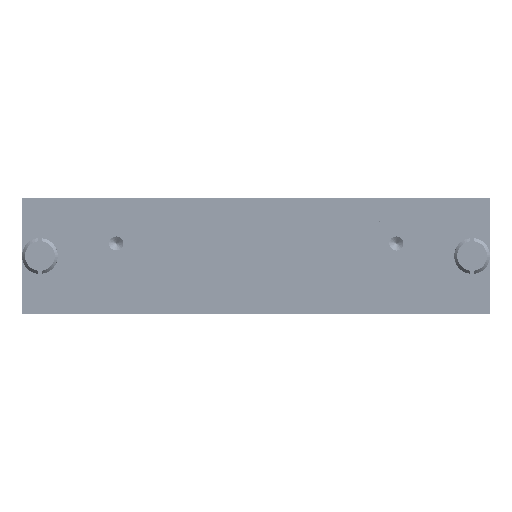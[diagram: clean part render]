
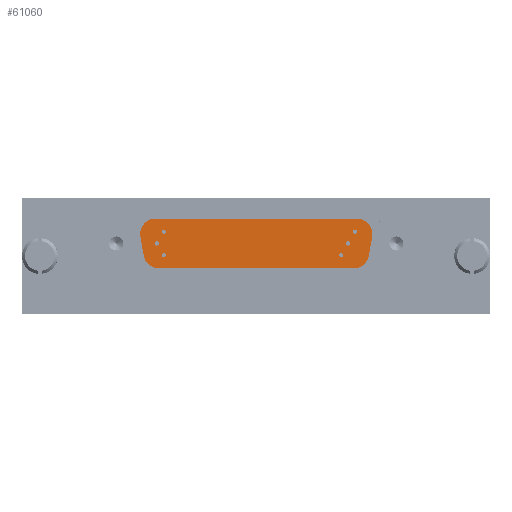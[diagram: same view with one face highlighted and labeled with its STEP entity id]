
A CAD part, left-side view. The second image highlights one B-rep face of the part: STEP entity #61060.
In plain terms, the highlighted planar face has unit normal (-1, 0, 0).
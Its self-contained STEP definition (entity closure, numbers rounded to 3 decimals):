
#61060=ADVANCED_FACE('',(#147154,#147156,#147158,#147160,#147162,#147164,#147166),
#147168,.T.);
#147154=FACE_BOUND('',#147155,.T.);
#147155=EDGE_LOOP('',(#235983,#235984,#235985,#235986,#235987,#235988,#235989,#235990));
#147156=FACE_BOUND('',#147157,.T.);
#147157=EDGE_LOOP('',(#235991));
#147158=FACE_BOUND('',#147159,.T.);
#147159=EDGE_LOOP('',(#235992));
#147160=FACE_BOUND('',#147161,.T.);
#147161=EDGE_LOOP('',(#235993));
#147162=FACE_BOUND('',#147163,.T.);
#147163=EDGE_LOOP('',(#235994));
#147164=FACE_BOUND('',#147165,.T.);
#147165=EDGE_LOOP('',(#235995));
#147166=FACE_BOUND('',#147167,.T.);
#147167=EDGE_LOOP('',(#235996));
#147168=PLANE('',#147169);
#147169=AXIS2_PLACEMENT_3D('',#147170,#147171,#147172);
#147170=CARTESIAN_POINT('',(-6.794,10.,-1.93));
#147171=DIRECTION('',(-1.,0.,0.));
#147172=DIRECTION('',(0.,0.,1.));
#235983=ORIENTED_EDGE('',*,*,#286956,.T.);
#235984=ORIENTED_EDGE('',*,*,#286971,.T.);
#235985=ORIENTED_EDGE('',*,*,#286969,.T.);
#235986=ORIENTED_EDGE('',*,*,#286967,.T.);
#235987=ORIENTED_EDGE('',*,*,#286965,.T.);
#235988=ORIENTED_EDGE('',*,*,#286963,.T.);
#235989=ORIENTED_EDGE('',*,*,#286961,.T.);
#235990=ORIENTED_EDGE('',*,*,#286959,.T.);
#235991=ORIENTED_EDGE('',*,*,#286976,.T.);
#235992=ORIENTED_EDGE('',*,*,#286977,.T.);
#235993=ORIENTED_EDGE('',*,*,#286978,.T.);
#235994=ORIENTED_EDGE('',*,*,#286979,.T.);
#235995=ORIENTED_EDGE('',*,*,#286980,.T.);
#235996=ORIENTED_EDGE('',*,*,#286981,.T.);
#286956=EDGE_CURVE('',#332772,#332773,#332774,.T.);
#286959=EDGE_CURVE('',#332777,#332772,#332778,.T.);
#286961=EDGE_CURVE('',#332780,#332777,#332781,.T.);
#286963=EDGE_CURVE('',#332783,#332780,#332784,.T.);
#286965=EDGE_CURVE('',#332786,#332783,#332787,.T.);
#286967=EDGE_CURVE('',#332789,#332786,#332790,.T.);
#286969=EDGE_CURVE('',#332792,#332789,#332793,.T.);
#286971=EDGE_CURVE('',#332773,#332792,#332795,.T.);
#286976=EDGE_CURVE('',#332804,#332804,#332805,.T.);
#286977=EDGE_CURVE('',#332806,#332806,#332807,.T.);
#286978=EDGE_CURVE('',#332808,#332808,#332809,.T.);
#286979=EDGE_CURVE('',#332810,#332810,#332811,.T.);
#286980=EDGE_CURVE('',#332812,#332812,#332813,.T.);
#286981=EDGE_CURVE('',#332814,#332814,#332815,.T.);
#332772=VERTEX_POINT('',#476763);
#332773=VERTEX_POINT('',#476764);
#332774=LINE('',#476765,#476766);
#332777=VERTEX_POINT('',#476774);
#332778=CIRCLE('',#476775,2.6);
#332780=VERTEX_POINT('',#476782);
#332781=LINE('',#476783,#476784);
#332783=VERTEX_POINT('',#476789);
#332784=CIRCLE('',#476790,2.6);
#332786=VERTEX_POINT('',#476797);
#332787=LINE('',#476798,#476799);
#332789=VERTEX_POINT('',#476804);
#332790=CIRCLE('',#476805,2.6);
#332792=VERTEX_POINT('',#476812);
#332793=LINE('',#476813,#476814);
#332795=CIRCLE('',#476819,2.6);
#332804=VERTEX_POINT('',#476843);
#332805=CIRCLE('',#476844,0.35);
#332806=VERTEX_POINT('',#476848);
#332807=CIRCLE('',#476849,0.35);
#332808=VERTEX_POINT('',#476853);
#332809=CIRCLE('',#476854,0.35);
#332810=VERTEX_POINT('',#476858);
#332811=CIRCLE('',#476859,0.35);
#332812=VERTEX_POINT('',#476863);
#332813=CIRCLE('',#476864,0.35);
#332814=VERTEX_POINT('',#476868);
#332815=CIRCLE('',#476869,0.35);
#476763=CARTESIAN_POINT('',(-6.794,53.073,0.19));
#476764=CARTESIAN_POINT('',(-6.794,20.427,0.19));
#476765=CARTESIAN_POINT('',(-6.794,53.073,0.19));
#476766=VECTOR('',#476767,1.);
#476767=DIRECTION('',(0.,-1.,0.));
#476774=CARTESIAN_POINT('',(-6.794,55.633,2.339));
#476775=AXIS2_PLACEMENT_3D('',#476776,#476777,#476778);
#476776=CARTESIAN_POINT('',(-6.794,53.073,2.79));
#476777=DIRECTION('',(-1.,0.,0.));
#476778=DIRECTION('',(0.,0.985,-0.174));
#476782=CARTESIAN_POINT('',(-6.794,56.19,5.499));
#476783=CARTESIAN_POINT('',(-6.794,56.19,5.499));
#476784=VECTOR('',#476785,1.);
#476785=DIRECTION('',(0.,-0.174,-0.985));
#476789=CARTESIAN_POINT('',(-6.794,53.63,8.55));
#476790=AXIS2_PLACEMENT_3D('',#476791,#476792,#476793);
#476791=CARTESIAN_POINT('',(-6.794,53.63,5.95));
#476792=DIRECTION('',(-1.,0.,0.));
#476793=DIRECTION('',(0.,0.,1.));
#476797=CARTESIAN_POINT('',(-6.794,19.87,8.55));
#476798=CARTESIAN_POINT('',(-6.794,19.87,8.55));
#476799=VECTOR('',#476800,1.);
#476800=DIRECTION('',(0.,1.,0.));
#476804=CARTESIAN_POINT('',(-6.794,17.309,5.499));
#476805=AXIS2_PLACEMENT_3D('',#476806,#476807,#476808);
#476806=CARTESIAN_POINT('',(-6.794,19.87,5.95));
#476807=DIRECTION('',(-1.,0.,0.));
#476808=DIRECTION('',(0.,-0.985,-0.174));
#476812=CARTESIAN_POINT('',(-6.794,17.867,2.339));
#476813=CARTESIAN_POINT('',(-6.794,17.867,2.339));
#476814=VECTOR('',#476815,1.);
#476815=DIRECTION('',(0.,-0.174,0.985));
#476819=AXIS2_PLACEMENT_3D('',#476820,#476821,#476822);
#476820=CARTESIAN_POINT('',(-6.794,20.427,2.79));
#476821=DIRECTION('',(-1.,0.,0.));
#476822=DIRECTION('',(0.,0.,-1.));
#476843=CARTESIAN_POINT('',(-6.794,19.86,6.35));
#476844=AXIS2_PLACEMENT_3D('',#476845,#476846,#476847);
#476845=CARTESIAN_POINT('',(-6.794,20.21,6.35));
#476846=DIRECTION('',(1.,0.,0.));
#476847=DIRECTION('',(0.,-1.,0.));
#476848=CARTESIAN_POINT('',(-6.794,53.07,4.37));
#476849=AXIS2_PLACEMENT_3D('',#476850,#476851,#476852);
#476850=CARTESIAN_POINT('',(-6.794,53.42,4.37));
#476851=DIRECTION('',(1.,0.,0.));
#476852=DIRECTION('',(0.,-1.,0.));
#476853=CARTESIAN_POINT('',(-6.794,21.01,4.37));
#476854=AXIS2_PLACEMENT_3D('',#476855,#476856,#476857);
#476855=CARTESIAN_POINT('',(-6.794,21.36,4.37));
#476856=DIRECTION('',(1.,0.,0.));
#476857=DIRECTION('',(0.,-1.,0.));
#476858=CARTESIAN_POINT('',(-6.794,51.92,2.39));
#476859=AXIS2_PLACEMENT_3D('',#476860,#476861,#476862);
#476860=CARTESIAN_POINT('',(-6.794,52.27,2.39));
#476861=DIRECTION('',(1.,0.,0.));
#476862=DIRECTION('',(0.,-1.,0.));
#476863=CARTESIAN_POINT('',(-6.794,22.15,2.39));
#476864=AXIS2_PLACEMENT_3D('',#476865,#476866,#476867);
#476865=CARTESIAN_POINT('',(-6.794,22.5,2.39));
#476866=DIRECTION('',(1.,0.,0.));
#476867=DIRECTION('',(0.,-1.,0.));
#476868=CARTESIAN_POINT('',(-6.794,51.92,6.35));
#476869=AXIS2_PLACEMENT_3D('',#476870,#476871,#476872);
#476870=CARTESIAN_POINT('',(-6.794,52.27,6.35));
#476871=DIRECTION('',(1.,0.,0.));
#476872=DIRECTION('',(0.,-1.,0.));
